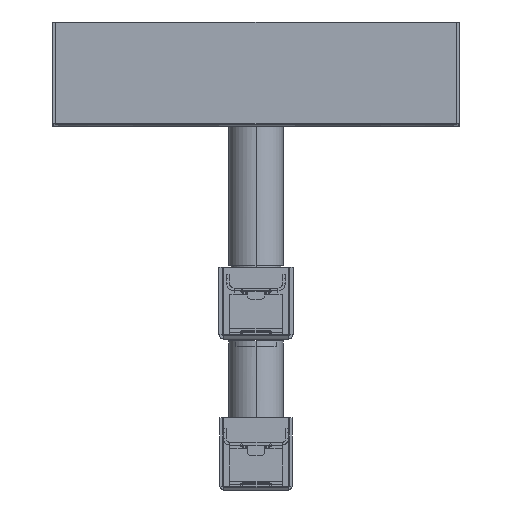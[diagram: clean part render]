
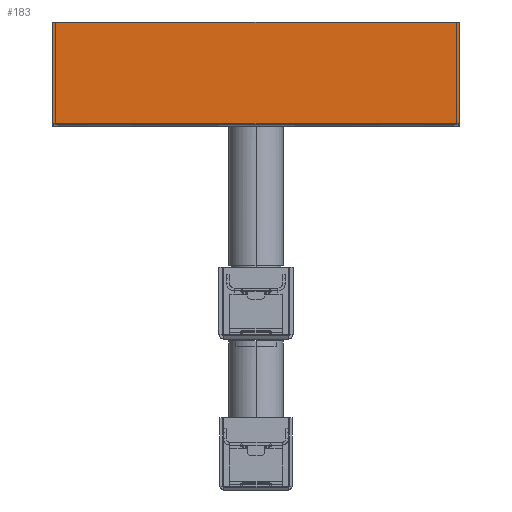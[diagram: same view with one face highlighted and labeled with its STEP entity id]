
A CAD part, left-side view. The second image highlights one B-rep face of the part: STEP entity #183.
In plain terms, the highlighted planar face has unit normal (-1, 0, 0).
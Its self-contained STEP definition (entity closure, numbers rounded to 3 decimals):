
#183=ADVANCED_FACE('',(#1078),#13172,.T.);
#1078=FACE_OUTER_BOUND('',#1975,.T.);
#1975=EDGE_LOOP('',(#3013,#3014,#3015,#3016));
#3013=ORIENTED_EDGE('',*,*,#7426,.T.);
#3014=ORIENTED_EDGE('',*,*,#7427,.F.);
#3015=ORIENTED_EDGE('',*,*,#7421,.T.);
#3016=ORIENTED_EDGE('',*,*,#7414,.F.);
#7414=EDGE_CURVE('',#11864,#11861,#9626,.T.);
#7421=EDGE_CURVE('',#11865,#11861,#9630,.T.);
#7426=EDGE_CURVE('',#11864,#11868,#9635,.T.);
#7427=EDGE_CURVE('',#11865,#11868,#9636,.T.);
#9626=B_SPLINE_CURVE_WITH_KNOTS('',1,(#15992,#15993),.UNSPECIFIED.,.F.,
 .F.,(2,2),(0.,186.),.UNSPECIFIED.);
#9630=B_SPLINE_CURVE_WITH_KNOTS('',1,(#16009,#16010),.UNSPECIFIED.,.F.,
 .F.,(2,2),(-46.5,0.),.UNSPECIFIED.);
#9635=B_SPLINE_CURVE_WITH_KNOTS('',1,(#16019,#16020),.UNSPECIFIED.,.F.,
 .F.,(2,2),(-46.5,0.),.UNSPECIFIED.);
#9636=B_SPLINE_CURVE_WITH_KNOTS('',1,(#16021,#16022),.UNSPECIFIED.,.F.,
 .F.,(2,2),(-186.,0.),.UNSPECIFIED.);
#11861=VERTEX_POINT('',#15816);
#11864=VERTEX_POINT('',#15819);
#11865=VERTEX_POINT('',#15820);
#11868=VERTEX_POINT('',#15823);
#13172=PLANE('',#14031);
#14031=AXIS2_PLACEMENT_3D('',#15467,#14605,$);
#14605=DIRECTION('',(-1.,0.,0.));
#15467=CARTESIAN_POINT('',(-130.,-218.6,111.75));
#15816=CARTESIAN_POINT('',(-130.,-14.,60.6));
#15819=CARTESIAN_POINT('',(-130.,-200.,60.6));
#15820=CARTESIAN_POINT('',(-130.,-14.,107.1));
#15823=CARTESIAN_POINT('',(-130.,-200.,107.1));
#15992=CARTESIAN_POINT('',(-130.,-200.,60.6));
#15993=CARTESIAN_POINT('',(-130.,-14.,60.6));
#16009=CARTESIAN_POINT('',(-130.,-14.,107.1));
#16010=CARTESIAN_POINT('',(-130.,-14.,60.6));
#16019=CARTESIAN_POINT('',(-130.,-200.,60.6));
#16020=CARTESIAN_POINT('',(-130.,-200.,107.1));
#16021=CARTESIAN_POINT('',(-130.,-14.,107.1));
#16022=CARTESIAN_POINT('',(-130.,-200.,107.1));
